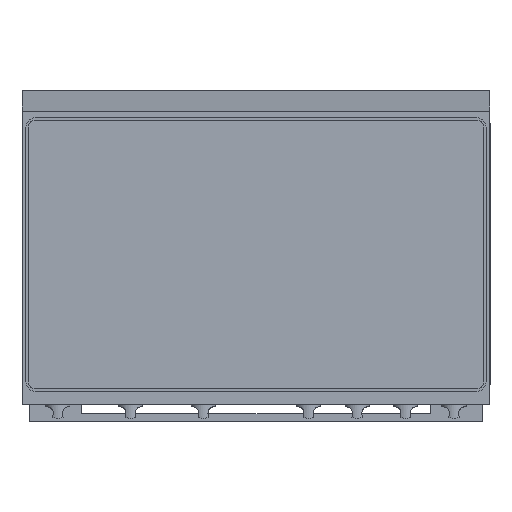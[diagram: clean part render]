
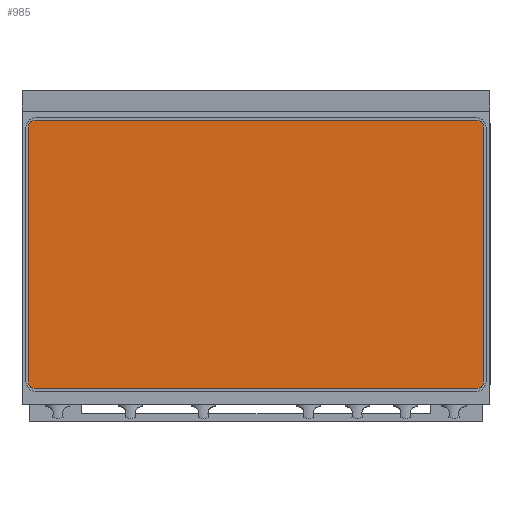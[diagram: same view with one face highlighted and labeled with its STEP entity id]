
A CAD part, top view. The second image highlights one B-rep face of the part: STEP entity #985.
In plain terms, the highlighted planar face has unit normal (0, 0, 1).
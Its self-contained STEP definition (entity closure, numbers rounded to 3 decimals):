
#806=CIRCLE('',#5769,13.);
#808=CIRCLE('',#5773,13.);
#810=CIRCLE('',#5777,13.);
#812=CIRCLE('',#5781,13.);
#985=ADVANCED_FACE('',(#1548),#1305,.F.);
#1305=PLANE('',#5783);
#1548=FACE_OUTER_BOUND('',#1862,.T.);
#1862=EDGE_LOOP('',(#2467,#2468,#2469,#2470,#2471,#2472,#2473,#2474));
#2467=ORIENTED_EDGE('',*,*,#4258,.F.);
#2468=ORIENTED_EDGE('',*,*,#4279,.F.);
#2469=ORIENTED_EDGE('',*,*,#4276,.F.);
#2470=ORIENTED_EDGE('',*,*,#4273,.F.);
#2471=ORIENTED_EDGE('',*,*,#4270,.F.);
#2472=ORIENTED_EDGE('',*,*,#4267,.F.);
#2473=ORIENTED_EDGE('',*,*,#4264,.F.);
#2474=ORIENTED_EDGE('',*,*,#4261,.F.);
#3719=VERTEX_POINT('',#8758);
#3720=VERTEX_POINT('',#8760);
#3722=VERTEX_POINT('',#8766);
#3724=VERTEX_POINT('',#8772);
#3726=VERTEX_POINT('',#8778);
#3728=VERTEX_POINT('',#8784);
#3730=VERTEX_POINT('',#8790);
#3732=VERTEX_POINT('',#8796);
#4258=EDGE_CURVE('',#3719,#3720,#4920,.T.);
#4261=EDGE_CURVE('',#3720,#3722,#806,.T.);
#4264=EDGE_CURVE('',#3722,#3724,#4924,.T.);
#4267=EDGE_CURVE('',#3724,#3726,#808,.T.);
#4270=EDGE_CURVE('',#3726,#3728,#4928,.T.);
#4273=EDGE_CURVE('',#3728,#3730,#810,.T.);
#4276=EDGE_CURVE('',#3730,#3732,#4932,.T.);
#4279=EDGE_CURVE('',#3732,#3719,#812,.T.);
#4920=LINE('',#8759,#5337);
#4924=LINE('',#8771,#5341);
#4928=LINE('',#8783,#5345);
#4932=LINE('',#8795,#5349);
#5337=VECTOR('',#6340,1.);
#5341=VECTOR('',#6352,1.);
#5345=VECTOR('',#6364,1.);
#5349=VECTOR('',#6376,1.);
#5769=AXIS2_PLACEMENT_3D('',#8765,#6346,#6347);
#5773=AXIS2_PLACEMENT_3D('',#8777,#6358,#6359);
#5777=AXIS2_PLACEMENT_3D('',#8789,#6370,#6371);
#5781=AXIS2_PLACEMENT_3D('',#8800,#6382,#6383);
#5783=AXIS2_PLACEMENT_3D('',#8802,#6386,#6387);
#6340=DIRECTION('',(0.,1.,0.));
#6346=DIRECTION('',(0.,0.,-1.));
#6347=DIRECTION('',(1.,0.,0.));
#6352=DIRECTION('',(1.,0.,0.));
#6358=DIRECTION('',(0.,0.,-1.));
#6359=DIRECTION('',(1.,0.,0.));
#6364=DIRECTION('',(0.,-1.,0.));
#6370=DIRECTION('',(0.,0.,-1.));
#6371=DIRECTION('',(1.,0.,0.));
#6376=DIRECTION('',(-1.,0.,0.));
#6382=DIRECTION('',(0.,0.,-1.));
#6383=DIRECTION('',(1.,0.,0.));
#6386=DIRECTION('',(0.,0.,-1.));
#6387=DIRECTION('',(-1.,0.,0.));
#8758=CARTESIAN_POINT('',(-186.875,14.825,424.574));
#8759=CARTESIAN_POINT('',(-186.875,14.825,424.574));
#8760=CARTESIAN_POINT('',(-186.875,503.825,424.574));
#8765=CARTESIAN_POINT('',(-173.875,503.825,424.574));
#8766=CARTESIAN_POINT('',(-173.875,516.825,424.574));
#8771=CARTESIAN_POINT('',(-173.875,516.825,424.574));
#8772=CARTESIAN_POINT('',(673.125,516.825,424.574));
#8777=CARTESIAN_POINT('',(673.125,503.825,424.574));
#8778=CARTESIAN_POINT('',(686.125,503.825,424.574));
#8783=CARTESIAN_POINT('',(686.125,503.825,424.574));
#8784=CARTESIAN_POINT('',(686.125,14.825,424.574));
#8789=CARTESIAN_POINT('',(673.125,14.825,424.574));
#8790=CARTESIAN_POINT('',(673.125,1.825,424.574));
#8795=CARTESIAN_POINT('',(673.125,1.825,424.574));
#8796=CARTESIAN_POINT('',(-173.875,1.825,424.574));
#8800=CARTESIAN_POINT('',(-173.875,14.825,424.574));
#8802=CARTESIAN_POINT('',(-173.875,503.825,424.574));
